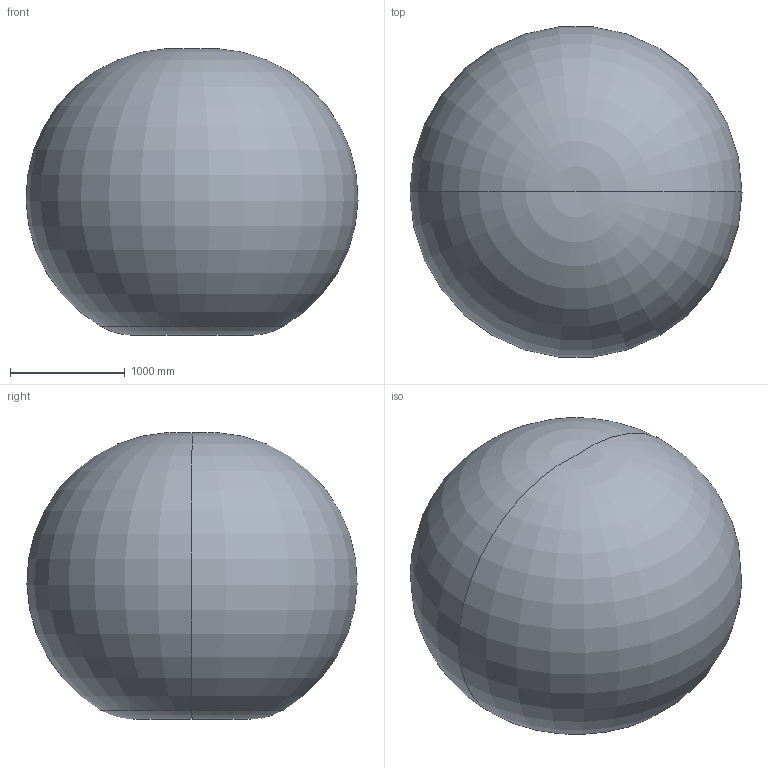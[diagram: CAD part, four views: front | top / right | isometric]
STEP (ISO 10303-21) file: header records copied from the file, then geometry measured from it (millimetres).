
FILE_DESCRIPTION (( 'STEP AP214' ), '1' );
FILE_NAME ('IRB1600_X-145_working space.STEP', '2025-09-08T07:52:36', ( '' ), ( '' ), 'SwSTEP 2.0', 'SolidWorks 2024', '' );
FILE_SCHEMA (( 'AUTOMOTIVE_DESIGN' ));
Length unit declared in the file: millimetre
Products named in the file (1): IRB1600_X-145_working space
Bounding box: 2899.37 x 2883.48 x 2504.11 mm (x, y, z)
Volume: 11761387095.9 mm3; surface area: 25606660.1 mm2
Topology: 1 solids, 2 shells, 12 faces, 28 edges, 12 vertices
Faces by surface type: torus 12
Entity records: 313 total; most frequent: DIRECTION 66, CARTESIAN_POINT 45, ORIENTED_EDGE 40, AXIS2_PLACEMENT_3D 33, CIRCLE 20, EDGE_CURVE 20, VERTEX_POINT 12, TOROIDAL_SURFACE 12
